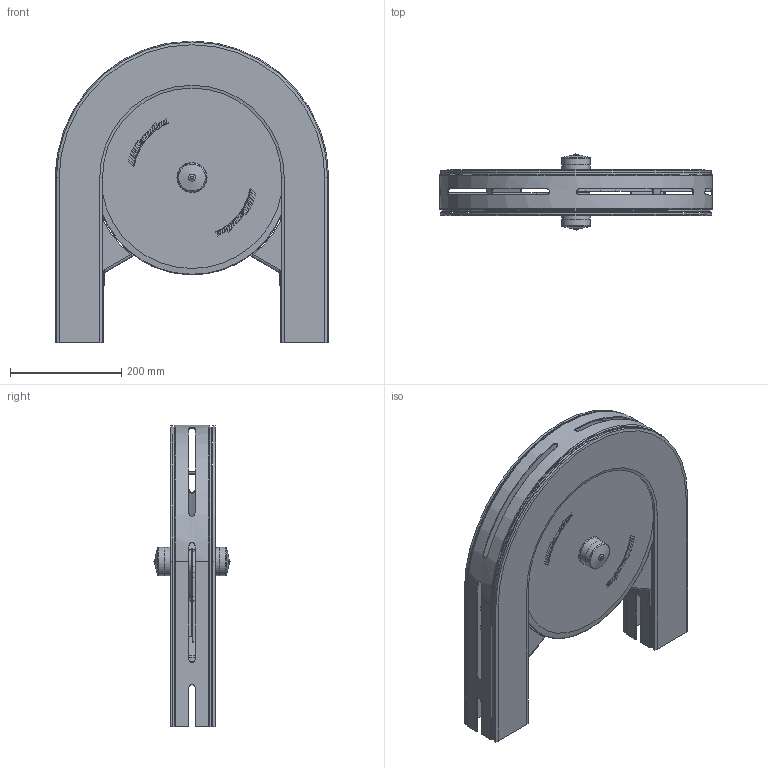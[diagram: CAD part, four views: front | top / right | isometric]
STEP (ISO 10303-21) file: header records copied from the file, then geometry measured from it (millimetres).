
FILE_DESCRIPTION(/* description */ ('WHEELCURVE 180° SERIE 530'),/* implementation_level */ '2;1');
FILE_NAME(/* name */ '530-5055-180.stp',/* time_stamp */ '2022-09-21T15:24:31+02:00',/* author */ ('ML'),/* organization */ ('CARRYLINE'),/* preprocessor_version */ 'ST-DEVELOPER v19.2',/* originating_system */ 'Autodesk Inventor 2023',/* authorisation */ '');
FILE_SCHEMA (('AUTOMOTIVE_DESIGN { 1 0 10303 214 3 1 1 }'));
Length unit declared in the file: millimetre
Products named in the file (8): 530-5055-180; 530-5375+830-2000-01; 830-5060_1; 830-5062; 14261_2; 14261_11; 14261_12; 14261_20
Assembly tree (10 placements, depth 2):
  530-5055-180
    530-5375+830-2000-01
    830-5060_1  x2
    830-5062  x2
    14261_2
    14261_11
    14261_12
    14261_20  x2
Bounding box: 491 x 136.8 x 543 mm (x, y, z)
Volume: 3332225 mm3; surface area: 1582720.4 mm2
Topology: 11 solids, 11 shells, 1406 faces, 3543 edges, 2228 vertices
Faces by surface type: plane 809, bspline 270, cylinder 195, cone 66, torus 62, sphere 4
Full cylindrical faces by diameter (mm): 4.917 x8, 6.2 x8, 8.5 x2, 16.2 x2, 17 x4, 20 x4, 30 x3, 40 x4, 47.6 x2, 51.3 x2, 350 x2
Entity records: 32677 total; most frequent: CARTESIAN_POINT 12374, ORIENTED_EDGE 4278, DIRECTION 3886, EDGE_CURVE 2139, VERTEX_POINT 1372, LINE 1332, VECTOR 1332, AXIS2_PLACEMENT_3D 1277
